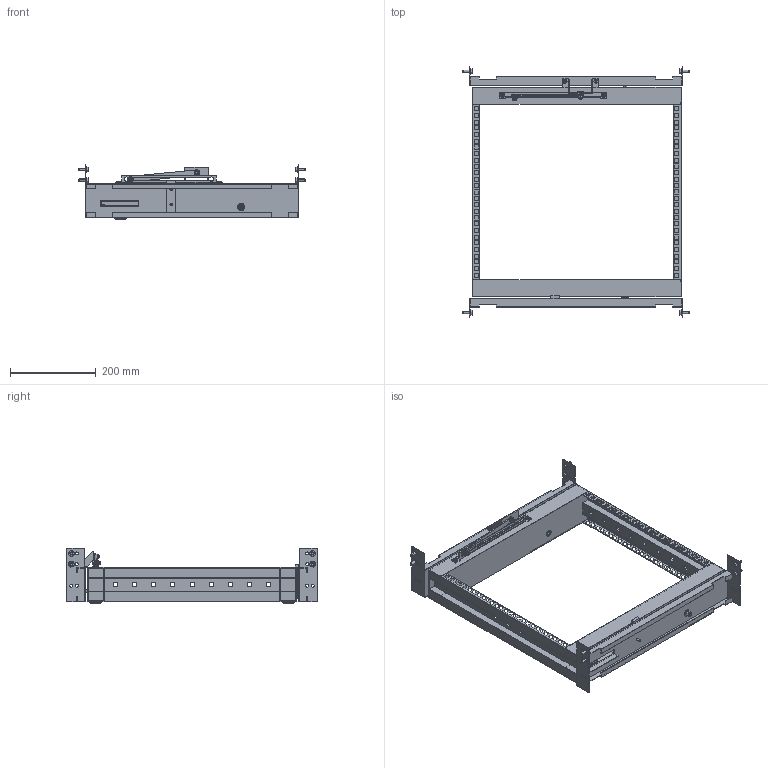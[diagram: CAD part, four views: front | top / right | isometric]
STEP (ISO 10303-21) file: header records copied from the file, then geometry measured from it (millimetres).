
FILE_DESCRIPTION(('Open CASCADE Model'),'2;1');
FILE_NAME('Open CASCADE Shape Model','2025-03-24T10:14:26',('Author'),( 'Open CASCADE'),'Open CASCADE STEP processor 7.8','Open CASCADE 7.8' ,'Unknown');
FILE_SCHEMA(('AUTOMOTIVE_DESIGN { 1 0 10303 214 1 1 1 1 }'));
Length unit declared in the file: millimetre
Products named in the file (28): Compound1; Compound2; Solid1; Solid2; Compound3; Solid3; Solid4; Solid5; Solid6; Solid7; Solid8; Solid9; Solid10; Solid11; Solid12; Solid13; Solid14; Compound4; Solid15; Solid16; Solid17; Solid18; Compound5; Solid19; Solid20; Solid21; Solid22; Solid23
Assembly tree (44 placements, depth 3):
  Compound1
    Compound2
      Solid1
      Solid2
    Compound3
      Solid3
      Solid2
    Solid4  x2
    Solid5  x2
    Solid6
    Solid7
    Solid8
    Solid9
    Solid10
    Solid11  x2
    Solid12  x4
    Solid13  x8
    Solid14
    Compound4
      Solid15
      Solid16
    Solid17
    Solid18
    Compound5
      Solid19  x2
      Solid20
      Solid21  x2
      Solid22
      Solid23  x2
Bounding box: 526 x 582 x 130 mm (x, y, z)
Volume: 894959.8 mm3; surface area: 1067093.2 mm2
Topology: 40 solids, 58 shells, 2840 faces, 7977 edges, 5207 vertices
Faces by surface type: plane 1630, cylinder 594, cone 222, bspline 180, torus 156, sphere 58
Entity records: 59247 total; most frequent: CARTESIAN_POINT 16430, ORIENTED_EDGE 8922, DIRECTION 8247, EDGE_CURVE 4631, LINE 3159, VECTOR 3159, VERTEX_POINT 3060, AXIS2_PLACEMENT_3D 2544
